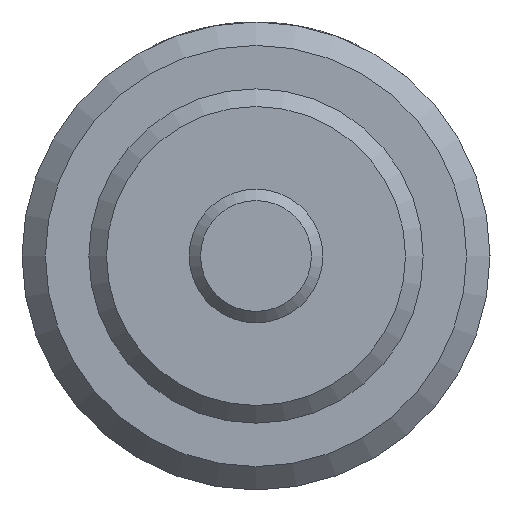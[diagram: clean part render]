
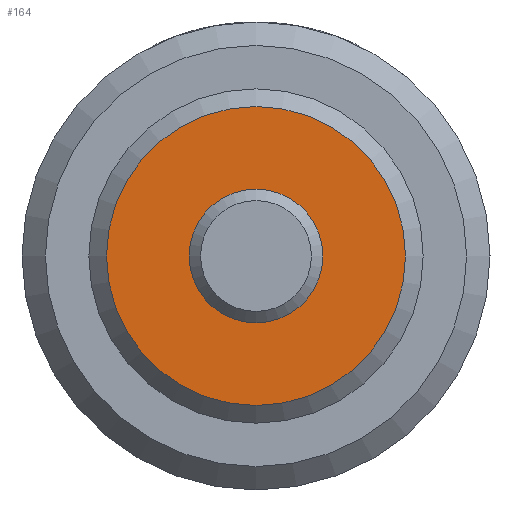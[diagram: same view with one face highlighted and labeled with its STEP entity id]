
A CAD part, left-side view. The second image highlights one B-rep face of the part: STEP entity #164.
In plain terms, the highlighted planar face has unit normal (-1, 0, 0).
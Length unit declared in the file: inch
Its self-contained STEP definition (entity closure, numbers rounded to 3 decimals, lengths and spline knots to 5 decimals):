
#164 = ADVANCED_FACE( '', ( #332, #333 ), #334, .F. );
#332 = FACE_OUTER_BOUND( '', #512, .T. );
#333 = FACE_BOUND( '', #513, .T. );
#334 = PLANE( '', #514 );
#512 = EDGE_LOOP( '', ( #764 ) );
#513 = EDGE_LOOP( '', ( #765 ) );
#514 = AXIS2_PLACEMENT_3D( '', #766, #767, #768 );
#764 = ORIENTED_EDGE( '', *, *, #939, .F. );
#765 = ORIENTED_EDGE( '', *, *, #921, .T. );
#766 = CARTESIAN_POINT( '', ( 0., 0., 0. ) );
#767 = DIRECTION( '', ( 1., 0., 0. ) );
#768 = DIRECTION( '', ( 0., 0., -1. ) );
#921 = EDGE_CURVE( '', #1055, #1055, #1056, .T. );
#939 = EDGE_CURVE( '', #1082, #1082, #1083, .T. );
#1055 = VERTEX_POINT( '', #1325 );
#1056 = CIRCLE( '', #1326, 0.125 );
#1082 = VERTEX_POINT( '', #1379 );
#1083 = CIRCLE( '', #1380, 0.27945 );
#1325 = CARTESIAN_POINT( '', ( 0., 0., -0.125 ) );
#1326 = AXIS2_PLACEMENT_3D( '', #1514, #1515, #1516 );
#1379 = CARTESIAN_POINT( '', ( 0., 0., -0.27945 ) );
#1380 = AXIS2_PLACEMENT_3D( '', #1541, #1542, #1543 );
#1514 = CARTESIAN_POINT( '', ( 0., 0., 0. ) );
#1515 = DIRECTION( '', ( 1., 0., 0. ) );
#1516 = DIRECTION( '', ( 0., 0., -1. ) );
#1541 = CARTESIAN_POINT( '', ( 0., 0., 0. ) );
#1542 = DIRECTION( '', ( 1., 0., 0. ) );
#1543 = DIRECTION( '', ( 0., 0., -1. ) );
